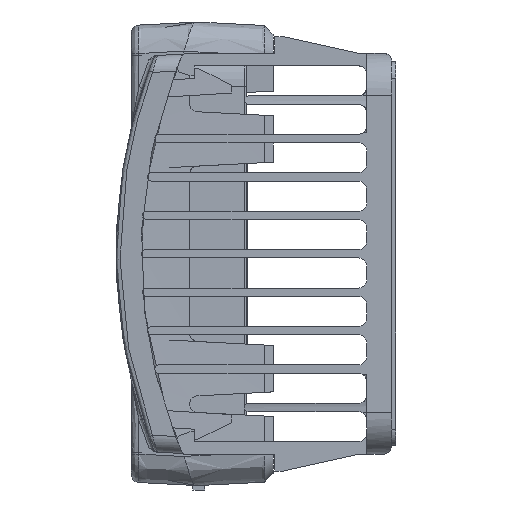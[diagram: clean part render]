
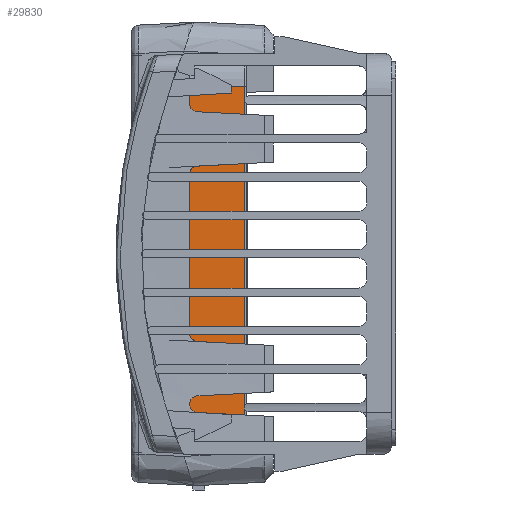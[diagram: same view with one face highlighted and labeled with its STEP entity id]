
A CAD part, left-side view. The second image highlights one B-rep face of the part: STEP entity #29830.
In plain terms, the highlighted planar face has unit normal (-1, 0, 0) as drawn and (0, 0, -1) by its records, which use the part's own axes.
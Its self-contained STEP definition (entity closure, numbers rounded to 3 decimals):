
#17416=DIRECTION('',(1.,0.,0.));
#17417=VECTOR('',#17416,20.);
#17418=CARTESIAN_POINT('',(-10.,0.125,-12.5));
#17419=LINE('',#17418,#17417);
#17420=DIRECTION('',(0.,-1.,0.));
#17421=VECTOR('',#17420,6.65);
#17422=CARTESIAN_POINT('',(10.,6.775,-12.5));
#17423=LINE('',#17422,#17421);
#17424=DIRECTION('',(-1.,0.,0.));
#17425=VECTOR('',#17424,20.);
#17426=CARTESIAN_POINT('',(10.,6.775,-12.5));
#17427=LINE('',#17426,#17425);
#17428=DIRECTION('',(0.,-1.,0.));
#17429=VECTOR('',#17428,6.65);
#17430=CARTESIAN_POINT('',(-10.,6.775,-12.5));
#17431=LINE('',#17430,#17429);
#20655=CARTESIAN_POINT('',(-10.,0.125,-12.5));
#20656=VERTEX_POINT('',#20655);
#20659=CARTESIAN_POINT('',(10.,0.125,-12.5));
#20660=VERTEX_POINT('',#20659);
#20675=CARTESIAN_POINT('',(10.,6.775,-12.5));
#20676=VERTEX_POINT('',#20675);
#20677=CARTESIAN_POINT('',(-10.,6.775,-12.5));
#20678=VERTEX_POINT('',#20677);
#29818=CARTESIAN_POINT('',(12.5,0.,-12.5));
#29819=DIRECTION('',(0.,0.,-1.));
#29820=DIRECTION('',(-1.,0.,0.));
#29821=AXIS2_PLACEMENT_3D('',#29818,#29819,#29820);
#29822=PLANE('',#29821);
#29823=ORIENTED_EDGE('',*,*,#29570,.T.);
#29824=ORIENTED_EDGE('',*,*,#29813,.F.);
#29825=ORIENTED_EDGE('',*,*,#29486,.T.);
#29827=ORIENTED_EDGE('',*,*,#29826,.T.);
#29828=EDGE_LOOP('',(#29823,#29824,#29825,#29827));
#29829=FACE_OUTER_BOUND('',#29828,.F.);
#29830=ADVANCED_FACE('',(#29829),#29822,.T.);
#29486=EDGE_CURVE('',#20676,#20678,#17427,.T.);
#29570=EDGE_CURVE('',#20656,#20660,#17419,.T.);
#29813=EDGE_CURVE('',#20676,#20660,#17423,.T.);
#29826=EDGE_CURVE('',#20678,#20656,#17431,.T.);
